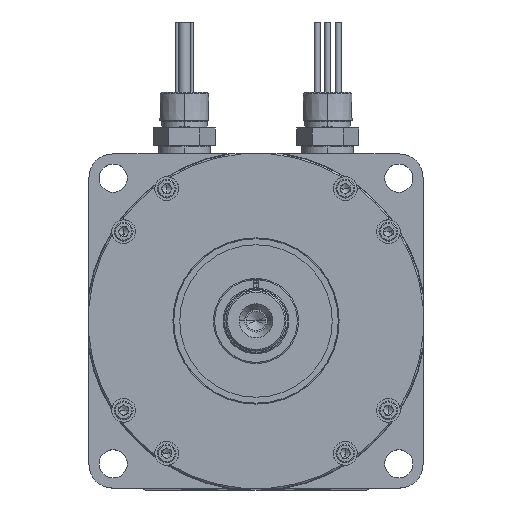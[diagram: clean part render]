
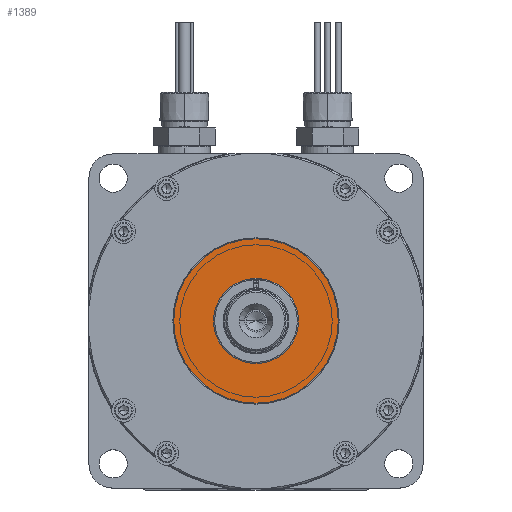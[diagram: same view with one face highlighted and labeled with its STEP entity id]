
A CAD part, top view. The second image highlights one B-rep face of the part: STEP entity #1389.
In plain terms, the highlighted planar face has unit normal (0, 0, 1).
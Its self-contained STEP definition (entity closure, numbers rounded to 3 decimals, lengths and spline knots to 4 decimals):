
#1217 = EDGE_CURVE ( 'NONE', #11834, #30363, #88033, .T. ) ;
#1389 = ADVANCED_FACE ( 'NONE', ( #93890, #16559 ), #70400, .F. ) ;
#5548 = CARTESIAN_POINT ( 'NONE',  ( 0., 0., -2.4001 ) ) ;
#7501 = DIRECTION ( 'NONE',  ( 1., 0., 0. ) ) ;
#10101 = CARTESIAN_POINT ( 'NONE',  ( 0., 0.8909, -2.4001 ) ) ;
#10231 = CIRCLE ( 'NONE', #65608, 1.722 ) ;
#11834 = VERTEX_POINT ( 'NONE', #90386 ) ;
#13065 = DIRECTION ( 'NONE',  ( 1., 0., 0. ) ) ;
#13359 = EDGE_LOOP ( 'NONE', ( #59176, #82579 ) ) ;
#16559 = FACE_OUTER_BOUND ( 'NONE', #66642, .T. ) ;
#20254 = ORIENTED_EDGE ( 'NONE', *, *, #68422, .T. ) ;
#24891 = VERTEX_POINT ( 'NONE', #60700 ) ;
#25456 = DIRECTION ( 'NONE',  ( 0., 0., -1. ) ) ;
#25524 = AXIS2_PLACEMENT_3D ( 'NONE', #89289, #44451, #96788 ) ;
#28502 = AXIS2_PLACEMENT_3D ( 'NONE', #10101, #25456, #77927 ) ;
#30363 = VERTEX_POINT ( 'NONE', #74484 ) ;
#31275 = ORIENTED_EDGE ( 'NONE', *, *, #66357, .T. ) ;
#38096 = CARTESIAN_POINT ( 'NONE',  ( 0., 0., -2.4001 ) ) ;
#43323 = AXIS2_PLACEMENT_3D ( 'NONE', #5548, #57957, #13065 ) ;
#43975 = EDGE_CURVE ( 'NONE', #30363, #11834, #45162, .T. ) ;
#44451 = DIRECTION ( 'NONE',  ( 0., 0., 1. ) ) ;
#45162 = CIRCLE ( 'NONE', #43323, 0.8909 ) ;
#45636 = DIRECTION ( 'NONE',  ( 1., 0., 0. ) ) ;
#50492 = AXIS2_PLACEMENT_3D ( 'NONE', #97188, #52397, #7501 ) ;
#51615 = CIRCLE ( 'NONE', #25524, 1.722 ) ;
#52397 = DIRECTION ( 'NONE',  ( 0., 0., 1. ) ) ;
#57957 = DIRECTION ( 'NONE',  ( 0., 0., 1. ) ) ;
#59176 = ORIENTED_EDGE ( 'NONE', *, *, #43975, .F. ) ;
#60700 = CARTESIAN_POINT ( 'NONE',  ( 1.722, 0., -2.4001 ) ) ;
#65608 = AXIS2_PLACEMENT_3D ( 'NONE', #38096, #90474, #45636 ) ;
#66357 = EDGE_CURVE ( 'NONE', #81971, #24891, #10231, .T. ) ;
#66642 = EDGE_LOOP ( 'NONE', ( #20254, #31275 ) ) ;
#68422 = EDGE_CURVE ( 'NONE', #24891, #81971, #51615, .T. ) ;
#70400 = PLANE ( 'NONE',  #28502 ) ;
#74484 = CARTESIAN_POINT ( 'NONE',  ( 0.8909, 0., -2.4001 ) ) ;
#77927 = DIRECTION ( 'NONE',  ( -1., 0., 0. ) ) ;
#81971 = VERTEX_POINT ( 'NONE', #84980 ) ;
#82579 = ORIENTED_EDGE ( 'NONE', *, *, #1217, .F. ) ;
#84980 = CARTESIAN_POINT ( 'NONE',  ( -1.722, 0., -2.4001 ) ) ;
#88033 = CIRCLE ( 'NONE', #50492, 0.8909 ) ;
#89289 = CARTESIAN_POINT ( 'NONE',  ( 0., 0., -2.4001 ) ) ;
#90386 = CARTESIAN_POINT ( 'NONE',  ( -0.8909, 0., -2.4001 ) ) ;
#90474 = DIRECTION ( 'NONE',  ( 0., 0., 1. ) ) ;
#93890 = FACE_BOUND ( 'NONE', #13359, .T. ) ;
#96788 = DIRECTION ( 'NONE',  ( 1., 0., 0. ) ) ;
#97188 = CARTESIAN_POINT ( 'NONE',  ( 0., 0., -2.4001 ) ) ;
